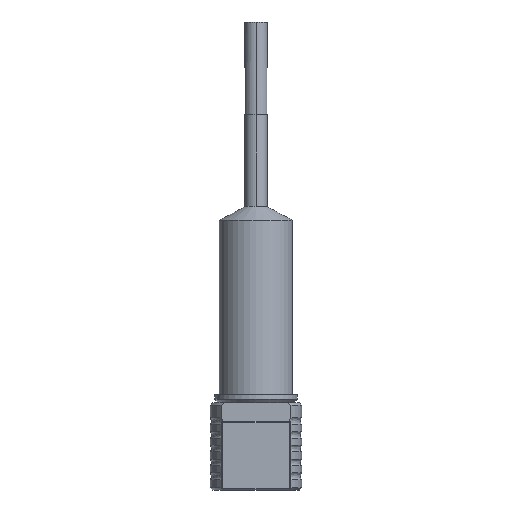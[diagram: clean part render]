
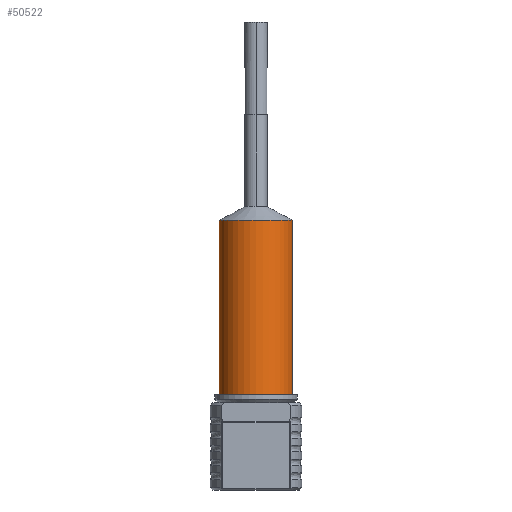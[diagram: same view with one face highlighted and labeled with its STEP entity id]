
A CAD part, left-side view. The second image highlights one B-rep face of the part: STEP entity #50522.
In plain terms, the highlighted cylindrical face has radius 8 mm (diameter 16 mm), a partial arc.
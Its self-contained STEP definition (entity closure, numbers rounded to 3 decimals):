
#1505 = CIRCLE ( 'NONE', #12295, 8. ) ;
#5666 = AXIS2_PLACEMENT_3D ( 'NONE', #55070, #55062, #55061 ) ;
#9879 = VERTEX_POINT ( 'NONE', #10107 ) ;
#9889 = VERTEX_POINT ( 'NONE', #10101 ) ;
#10101 = CARTESIAN_POINT ( 'NONE',  ( -1.706, -7.799, -23. ) ) ;
#10107 = CARTESIAN_POINT ( 'NONE',  ( 0.969, 7.975, -23. ) ) ;
#10761 = VERTEX_POINT ( 'NONE', #25347 ) ;
#10793 = VERTEX_POINT ( 'NONE', #24765 ) ;
#12060 = AXIS2_PLACEMENT_3D ( 'NONE', #46179, #46288, #46293 ) ;
#12295 = AXIS2_PLACEMENT_3D ( 'NONE', #25073, #25082, #25084 ) ;
#15499 = EDGE_CURVE ( 'NONE', #9889, #9879, #1505, .T. ) ;
#24765 = CARTESIAN_POINT ( 'NONE',  ( -1.706, -7.799, -61. ) ) ;
#25073 = CARTESIAN_POINT ( 'NONE',  ( -0.368, 0.088, -23. ) ) ;
#25082 = DIRECTION ( 'NONE',  ( 0., 0., -1. ) ) ;
#25084 = DIRECTION ( 'NONE',  ( 0.167, 0.986, 0. ) ) ;
#25347 = CARTESIAN_POINT ( 'NONE',  ( 0.969, 7.975, -61. ) ) ;
#27228 = EDGE_CURVE ( 'NONE', #10761, #10793, #33593, .T. ) ;
#27229 = EDGE_CURVE ( 'NONE', #9879, #10761, #33605, .T. ) ;
#27233 = EDGE_CURVE ( 'NONE', #9889, #10793, #33592, .T. ) ;
#33589 = VECTOR ( 'NONE', #47024, 1000. ) ;
#33592 = LINE ( 'NONE', #47025, #33589 ) ;
#33593 = CIRCLE ( 'NONE', #12060, 8. ) ;
#33598 = VECTOR ( 'NONE', #46302, 1000. ) ;
#33605 = LINE ( 'NONE', #46301, #33598 ) ;
#34590 = CYLINDRICAL_SURFACE ( 'NONE', #5666, 8. ) ;
#34591 = FACE_OUTER_BOUND ( 'NONE', #57603, .T. ) ;
#42265 = ORIENTED_EDGE ( 'NONE', *, *, #27229, .T. ) ;
#42266 = ORIENTED_EDGE ( 'NONE', *, *, #15499, .T. ) ;
#42267 = ORIENTED_EDGE ( 'NONE', *, *, #27228, .T. ) ;
#42268 = ORIENTED_EDGE ( 'NONE', *, *, #27233, .F. ) ;
#46179 = CARTESIAN_POINT ( 'NONE',  ( -0.368, 0.088, -61. ) ) ;
#46288 = DIRECTION ( 'NONE',  ( 0., 0., 1. ) ) ;
#46293 = DIRECTION ( 'NONE',  ( 0.167, 0.986, 0. ) ) ;
#46301 = CARTESIAN_POINT ( 'NONE',  ( 0.969, 7.975, -20. ) ) ;
#46302 = DIRECTION ( 'NONE',  ( 0., 0., -1. ) ) ;
#47024 = DIRECTION ( 'NONE',  ( 0., 0., -1. ) ) ;
#47025 = CARTESIAN_POINT ( 'NONE',  ( -1.706, -7.799, -20. ) ) ;
#50522 = ADVANCED_FACE ( 'NONE', ( #34591 ), #34590, .T. ) ;
#55061 = DIRECTION ( 'NONE',  ( -0.167, -0.986, 0. ) ) ;
#55062 = DIRECTION ( 'NONE',  ( 0., 0., -1. ) ) ;
#55070 = CARTESIAN_POINT ( 'NONE',  ( -0.368, 0.088, -20. ) ) ;
#57603 = EDGE_LOOP ( 'NONE', ( #42266, #42265, #42267, #42268 ) ) ;
